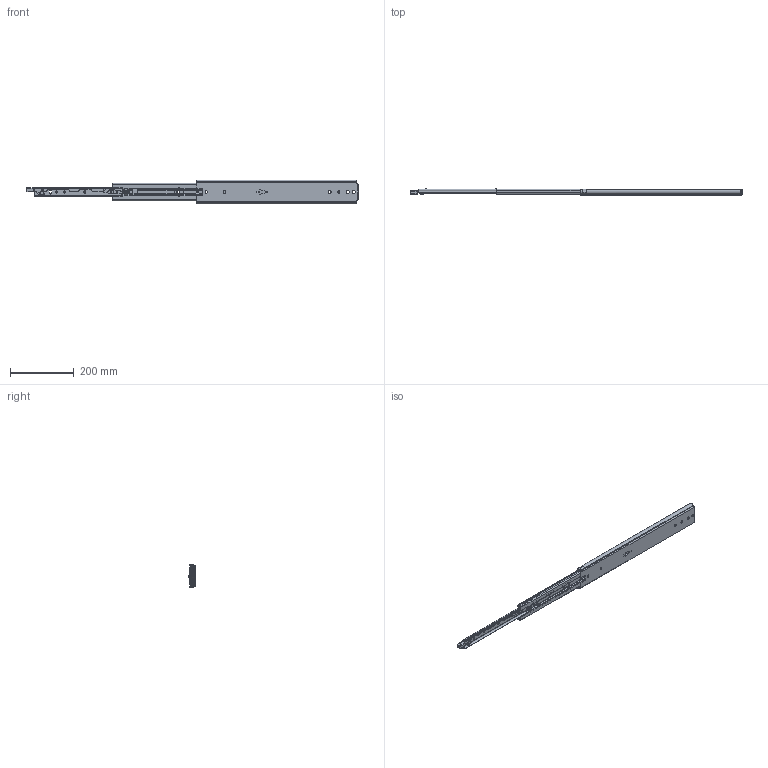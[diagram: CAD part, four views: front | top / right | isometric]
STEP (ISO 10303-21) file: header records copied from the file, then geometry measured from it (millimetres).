
FILE_DESCRIPTION((''),'2;1');
FILE_NAME('DG-76-3S-20YOU_ASM','2023-05-09T',('jishu015'),(''),'PRO/ENGINEER BY PARAMETRIC TECHNOLOGY CORPORATION, 2010280','PRO/ENGINEER BY PARAMETRIC TECHNOLOGY CORPORATION, 2010280','');
FILE_SCHEMA(('CONFIG_CONTROL_DESIGN'));
Products named in the file (29): KP-76-04WAIKE-1816___; 1076-WAIKEZIDANJIAO16___; WAIK16____ASM; 1076XIAOZHUTIAO-22516___; 16___; 1076XIAOZHUTIAO-17516____ASM; KP-76-04ZHONGGUI1816___; 76CHANGGUIZHONGGUIJIAO16___; 3X6WODIN16___; ZHONGGUIBAIKOU16___; PJ-76-30__; PJ-76-03__; 76-XIAOZHUJIA-11__; GANGZHU-XIAO__; ZHUJIA-XIAO___ASM; ZHONGGUI6____ASM; KP-76-04NEIGUI1816___; PJ-76-31__; DAOGPIAN16___; 1053-3SBANJ01__; JIAO-11__; 76XINSUOKOU__; PJ-338__; PJ-356__; PJ-357__; PJ-336__; M4X4__; NEIGUI16____ASM; DG-76-3S-20YOU_ASM
Assembly tree (52 placements, depth 4):
  DG-76-3S-20YOU_ASM
    WAIK16____ASM
      KP-76-04WAIKE-1816___
      1076-WAIKEZIDANJIAO16___  x2
    1076XIAOZHUTIAO-17516____ASM  x2
      1076XIAOZHUTIAO-22516___
      16___
    ZHONGGUI6____ASM
      KP-76-04ZHONGGUI1816___
      76CHANGGUIZHONGGUIJIAO16___
      3X6WODIN16___
      ZHONGGUIBAIKOU16___
      PJ-76-30__
      PJ-76-03__
      ZHUJIA-XIAO___ASM
        76-XIAOZHUJIA-11__
        GANGZHU-XIAO__  x16
    NEIGUI16____ASM
      KP-76-04NEIGUI1816___
      PJ-76-31__
      DAOGPIAN16___
      1053-3SBANJ01__
      JIAO-11__
      76XINSUOKOU__
      PJ-338__
      PJ-356__
      PJ-357__
      PJ-336__
      M4X4__
Bounding box: 1041.92 x 20.7 x 75.3 mm (x, y, z)
Volume: 331504.7 mm3; surface area: 319199.7 mm2
Topology: 56 solids, 56 shells, 1815 faces, 5403 edges, 3479 vertices
Faces by surface type: plane 811, cylinder 686, bspline 116, torus 80, sphere 71, cone 28, extrusion 23
Entity records: 65469 total; most frequent: CARTESIAN_POINT 21171, ORIENTED_EDGE 9786, DIRECTION 8580, EDGE_CURVE 4893, VERTEX_POINT 3211, AXIS2_PLACEMENT_3D 3021, VECTOR 2538, LINE 2515
